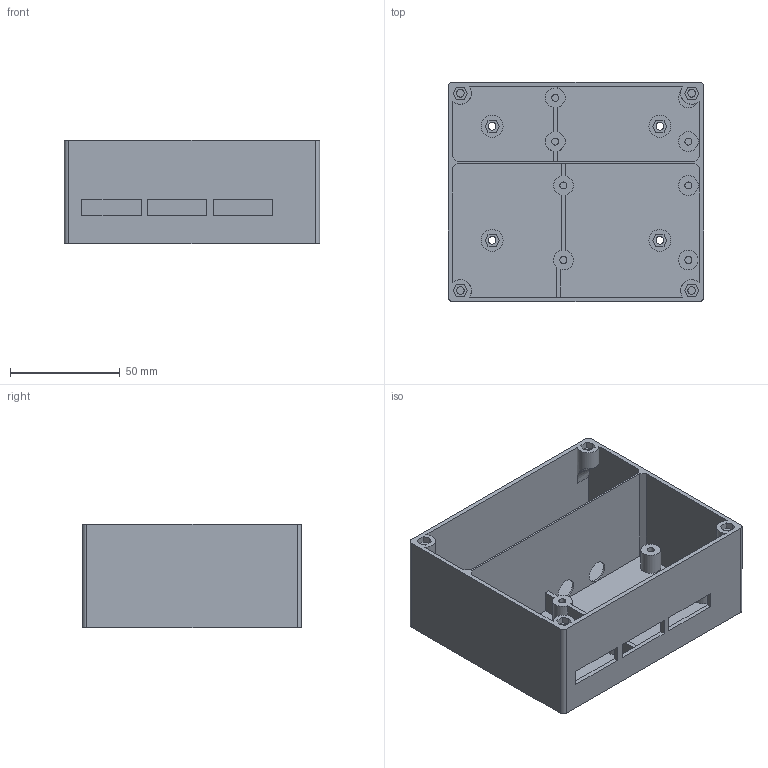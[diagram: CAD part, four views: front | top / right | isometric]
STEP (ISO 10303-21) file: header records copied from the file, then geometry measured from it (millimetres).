
FILE_DESCRIPTION(/* description */ (''),/* implementation_level */ '2;1');
FILE_NAME(/* name */ 'D:\3D печать\Мои проекты\Archy MK 2\STEP\Бокс под модули.stp',/* time_stamp */ '2019-03-20T22:12:33+06:00',/* author */ ('Пользователь'),/* organization */ (''),/* preprocessor_version */ 'ST-DEVELOPER v16.5',/* originating_system */ 'Autodesk Inventor 2017',/* authorisation */ '');
FILE_SCHEMA (('AUTOMOTIVE_DESIGN { 1 0 10303 214 3 1 1 }'));
Length unit declared in the file: millimetre
Products named in the file (1): Бокс под \X2\043C043E
04340443043B0438\X0\
Bounding box: 116.5 x 100 x 47 mm (x, y, z)
Volume: 63144.1 mm3; surface area: 76812 mm2
Topology: 1 solids, 1 shells, 174 faces, 465 edges, 336 vertices
Faces by surface type: plane 128, cylinder 42, bspline 4
Full cylindrical faces by diameter (mm): 3.2 x8, 3.5 x8, 9 x3, 10 x6
Entity records: 5830 total; most frequent: CARTESIAN_POINT 1491, DIRECTION 852, ORIENTED_EDGE 830, EDGE_CURVE 415, LINE 338, VECTOR 338, VERTEX_POINT 292, AXIS2_PLACEMENT_3D 257
